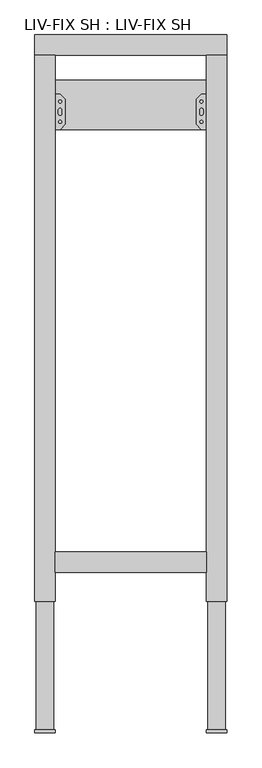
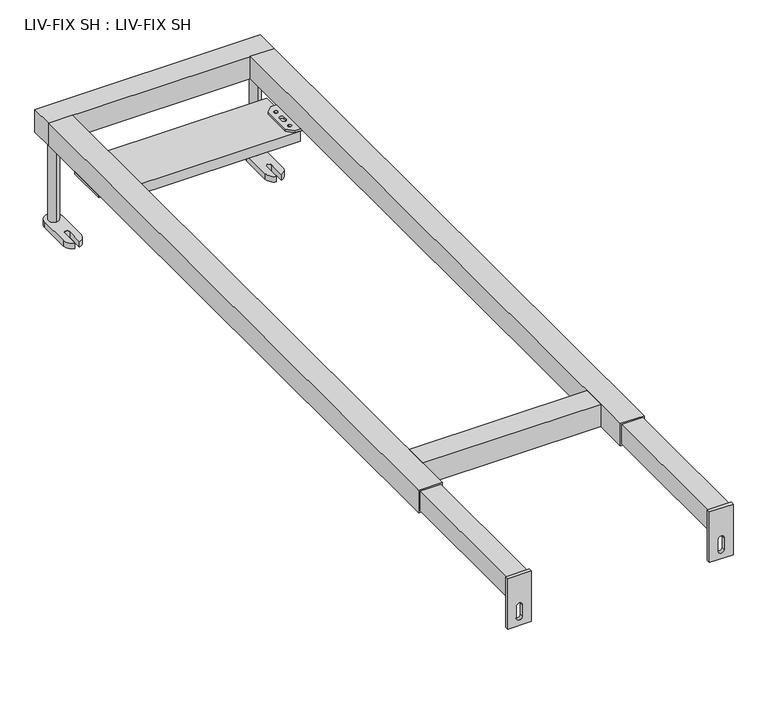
"""IFC4 building model written with IfcOpenShell, lengths in millimetres: flow terminal geometry, LIV-FIX SH : LIV-FIX SH."""

from ifc_helpers import new_model, si_unit, point, frame, frame_2d, origin, origin_with_axes, place, context, project, spatial, polyline, circle_curve, trimmed, segment, composite_curve, outline, extrude, source, transform, mapped, element, save


def liv_fix_sh_liv_fix_sh_ffb86fee(model_context):
    return source(origin(), model_context, "Body", "SweptSolid", [
        extrude(outline(polyline([(149.0, 993.0), (-149.0, 993.0), (-149.0, 1090.0), (149.0, 1090.0), (149.0, 993.0)])), frame((0.0, 0.0, 138.0), z_axis=(0.0, 0.0, 1.0), x_axis=(1.0, 0.0, 0.0)), (0.0, 0.0, 1.0), 18.0),
        extrude(outline(polyline([(140.0, 993.0), (130.0, 1003.0), (130.0, 1053.0), (140.0, 1063.0), (190.0, 1063.0), (190.0, 993.0), (140.0, 993.0)]), holes=[composite_curve([segment(trimmed(circle_curve(frame_2d((175.0, 1028.0)), 4.5), [point((175.0, 1023.5))], [point((175.0, 1032.5))], True, "CARTESIAN"), True, "CONTINUOUS"), segment(trimmed(circle_curve(frame_2d((175.0, 1028.0)), 4.5), [point((175.0, 1032.5))], [point((175.0, 1023.5))], True, "CARTESIAN"), True, "CONTINUOUS")], self_intersect=False), composite_curve([segment(trimmed(circle_curve(frame_2d((175.0, 1048.0)), 4.5), [point((175.0, 1043.5))], [point((175.0, 1052.5))], True, "CARTESIAN"), True, "CONTINUOUS"), segment(trimmed(circle_curve(frame_2d((175.0, 1048.0)), 4.5), [point((175.0, 1052.5))], [point((175.0, 1043.5))], True, "CARTESIAN"), True, "CONTINUOUS")], self_intersect=False), composite_curve([segment(trimmed(circle_curve(frame_2d((175.0, 1008.0)), 4.5), [point((175.0, 1003.5))], [point((175.0, 1012.5))], True, "CARTESIAN"), True, "CONTINUOUS"), segment(trimmed(circle_curve(frame_2d((175.0, 1008.0)), 4.5), [point((175.0, 1012.5))], [point((175.0, 1003.5))], True, "CARTESIAN"), True, "CONTINUOUS")], self_intersect=False), composite_curve([segment(trimmed(circle_curve(frame_2d((140.0, 1048.0)), 2.9795218), [point((140.0, 1045.0204782))], [point((140.0, 1050.9795218))], True, "CARTESIAN"), True, "CONTINUOUS"), segment(trimmed(circle_curve(frame_2d((140.0, 1048.0)), 2.9795218), [point((140.0, 1050.9795218))], [point((140.0, 1045.0204782))], True, "CARTESIAN"), True, "CONTINUOUS")], self_intersect=False), composite_curve([segment(trimmed(circle_curve(frame_2d((140.0, 1008.0)), 2.9795218), [point((140.0, 1005.0204782))], [point((140.0, 1010.9795218))], True, "CARTESIAN"), True, "CONTINUOUS"), segment(trimmed(circle_curve(frame_2d((140.0, 1008.0)), 2.9795218), [point((140.0, 1010.9795218))], [point((140.0, 1005.0204782))], True, "CARTESIAN"), True, "CONTINUOUS")], self_intersect=False), composite_curve([segment(trimmed(circle_curve(frame_2d((140.0, 1031.5)), 3.5), [point((143.5, 1031.5))], [point((136.5, 1031.5))], True, "CARTESIAN"), True, "CONTINUOUS"), segment(polyline([(136.5, 1031.5), (136.5, 1024.5)]), True, "CONTINUOUS"), segment(trimmed(circle_curve(frame_2d((140.0, 1024.5)), 3.5), [point((136.5, 1024.5))], [point((143.5, 1024.5))], True, "CARTESIAN"), True, "CONTINUOUS"), segment(polyline([(143.5, 1024.5), (143.5, 1031.5)]), True, "CONTINUOUS")], self_intersect=False)]), frame((0.0, 0.0, 156.0), z_axis=(0.0, 0.0, 1.0), x_axis=(1.0, 0.0, 0.0)), (0.0, 0.0, 1.0), 4.0),
        extrude(outline(polyline([(-140.0, 993.0), (-190.0, 993.0), (-190.0, 1063.0), (-140.0, 1063.0), (-130.0, 1053.0), (-130.0, 1003.0), (-140.0, 993.0)]), holes=[composite_curve([segment(trimmed(circle_curve(frame_2d((-175.0, 1028.0)), 4.5), [point((-175.0, 1023.5))], [point((-175.0, 1032.5))], True, "CARTESIAN"), True, "CONTINUOUS"), segment(trimmed(circle_curve(frame_2d((-175.0, 1028.0)), 4.5), [point((-175.0, 1032.5))], [point((-175.0, 1023.5))], True, "CARTESIAN"), True, "CONTINUOUS")], self_intersect=False), composite_curve([segment(trimmed(circle_curve(frame_2d((-175.0, 1048.0)), 4.5), [point((-175.0, 1043.5))], [point((-175.0, 1052.5))], True, "CARTESIAN"), True, "CONTINUOUS"), segment(trimmed(circle_curve(frame_2d((-175.0, 1048.0)), 4.5), [point((-175.0, 1052.5))], [point((-175.0, 1043.5))], True, "CARTESIAN"), True, "CONTINUOUS")], self_intersect=False), composite_curve([segment(trimmed(circle_curve(frame_2d((-175.0, 1008.0)), 4.5), [point((-175.0, 1003.5))], [point((-175.0, 1012.5))], True, "CARTESIAN"), True, "CONTINUOUS"), segment(trimmed(circle_curve(frame_2d((-175.0, 1008.0)), 4.5), [point((-175.0, 1012.5))], [point((-175.0, 1003.5))], True, "CARTESIAN"), True, "CONTINUOUS")], self_intersect=False), composite_curve([segment(trimmed(circle_curve(frame_2d((-140.0, 1048.0)), 2.9795218), [point((-140.0, 1045.0204782))], [point((-140.0, 1050.9795218))], True, "CARTESIAN"), True, "CONTINUOUS"), segment(trimmed(circle_curve(frame_2d((-140.0, 1048.0)), 2.9795218), [point((-140.0, 1050.9795218))], [point((-140.0, 1045.0204782))], True, "CARTESIAN"), True, "CONTINUOUS")], self_intersect=False), composite_curve([segment(trimmed(circle_curve(frame_2d((-140.0, 1008.0)), 2.9795218), [point((-140.0, 1005.0204782))], [point((-140.0, 1010.9795218))], True, "CARTESIAN"), True, "CONTINUOUS"), segment(trimmed(circle_curve(frame_2d((-140.0, 1008.0)), 2.9795218), [point((-140.0, 1010.9795218))], [point((-140.0, 1005.0204782))], True, "CARTESIAN"), True, "CONTINUOUS")], self_intersect=False), composite_curve([segment(polyline([(-143.5, 1031.5), (-143.5, 1024.5)]), True, "CONTINUOUS"), segment(trimmed(circle_curve(frame_2d((-140.0, 1024.5)), 3.5), [point((-143.5, 1024.5))], [point((-136.5, 1024.5))], True, "CARTESIAN"), True, "CONTINUOUS"), segment(polyline([(-136.5, 1024.5), (-136.5, 1031.5)]), True, "CONTINUOUS"), segment(trimmed(circle_curve(frame_2d((-140.0, 1031.5)), 3.5), [point((-136.5, 1031.5))], [point((-143.5, 1031.5))], True, "CARTESIAN"), True, "CONTINUOUS")], self_intersect=False)]), frame((0.0, 0.0, 156.0), z_axis=(0.0, 0.0, 1.0), x_axis=(1.0, 0.0, 0.0)), (0.0, 0.0, 1.0), 4.0),
        extrude(outline(composite_curve([segment(trimmed(circle_curve(frame_2d((-170.0, 1160.0)), 8.75), [point((-170.0, 1151.25))], [point((-170.0, 1168.75))], False, "CARTESIAN"), True, "CONTINUOUS"), segment(trimmed(circle_curve(frame_2d((-170.0, 1160.0)), 8.75), [point((-170.0, 1168.75))], [point((-170.0, 1151.25))], False, "CARTESIAN"), True, "CONTINUOUS")], self_intersect=False)), frame((0.0, 0.0, 10.0), z_axis=(0.0, 0.0, 1.0), x_axis=(1.0, 0.0, 0.0)), (0.0, 0.0, 1.0), 150.0),
        extrude(outline(composite_curve([segment(trimmed(circle_curve(frame_2d((170.0, 1160.0)), 8.75), [point((170.0, 1151.25))], [point((170.0, 1168.75))], False, "CARTESIAN"), True, "CONTINUOUS"), segment(trimmed(circle_curve(frame_2d((170.0, 1160.0)), 8.75), [point((170.0, 1168.75))], [point((170.0, 1151.25))], False, "CARTESIAN"), True, "CONTINUOUS")], self_intersect=False)), frame((0.0, 0.0, 10.0), z_axis=(0.0, 0.0, 1.0), x_axis=(1.0, 0.0, 0.0)), (0.0, 0.0, 1.0), 150.0),
        extrude(outline(composite_curve([segment(trimmed(circle_curve(frame_2d((-170.0, 1160.0)), 15.0), [point((-185.0, 1160.0))], [point((-155.0, 1160.0))], False, "CARTESIAN"), True, "CONTINUOUS"), segment(polyline([(-155.0, 1160.0), (-155.0, 1106.0)]), True, "CONTINUOUS"), segment(trimmed(circle_curve(frame_2d((-170.0, 1106.0)), 15.0), [point((-155.0, 1106.0))], [point((-166.0, 1091.5431677))], False, "CARTESIAN"), True, "CONTINUOUS"), segment(polyline([(-166.0, 1091.5431677), (-166.0, 1120.4568323)]), True, "CONTINUOUS"), segment(trimmed(circle_curve(frame_2d((-170.0, 1120.4568323)), 4.0), [point((-166.0, 1120.4568323))], [point((-174.0, 1120.4568323))], True, "CARTESIAN"), True, "CONTINUOUS"), segment(polyline([(-174.0, 1120.4568323), (-174.0, 1091.5431677)]), True, "CONTINUOUS"), segment(trimmed(circle_curve(frame_2d((-170.0, 1106.0)), 15.0), [point((-174.0, 1091.5431677))], [point((-185.0, 1106.0))], False, "CARTESIAN"), True, "CONTINUOUS"), segment(polyline([(-185.0, 1106.0), (-185.0, 1160.0)]), True, "CONTINUOUS")], self_intersect=False)), origin_with_axes(), (0.0, 0.0, 1.0), 10.0),
        extrude(outline(composite_curve([segment(polyline([(185.0, 1160.0), (185.0, 1106.0)]), True, "CONTINUOUS"), segment(trimmed(circle_curve(frame_2d((170.0, 1106.0)), 15.0), [point((185.0, 1106.0))], [point((174.0, 1091.5431677))], False, "CARTESIAN"), True, "CONTINUOUS"), segment(polyline([(174.0, 1091.5431677), (174.0, 1120.4568323)]), True, "CONTINUOUS"), segment(trimmed(circle_curve(frame_2d((170.0, 1120.4568323)), 4.0), [point((174.0, 1120.4568323))], [point((166.0, 1120.4568323))], True, "CARTESIAN"), True, "CONTINUOUS"), segment(polyline([(166.0, 1120.4568323), (166.0, 1091.5431677)]), True, "CONTINUOUS"), segment(trimmed(circle_curve(frame_2d((170.0, 1106.0)), 15.0), [point((166.0, 1091.5431677))], [point((155.0, 1106.0))], False, "CARTESIAN"), True, "CONTINUOUS"), segment(polyline([(155.0, 1106.0), (155.0, 1160.0)]), True, "CONTINUOUS"), segment(trimmed(circle_curve(frame_2d((170.0, 1160.0)), 15.0), [point((155.0, 1160.0))], [point((185.0, 1160.0))], False, "CARTESIAN"), True, "CONTINUOUS")], self_intersect=False)), origin_with_axes(), (0.0, 0.0, 1.0), 10.0),
        extrude(outline(polyline([(-187.5, 349.0), (-152.5, 349.0), (-152.5, -194.0), (-187.5, -194.0), (-187.5, 349.0)])), frame((0.0, 0.0, 162.5), z_axis=(0.0, 0.0, 1.0), x_axis=(1.0, 0.0, 0.0)), (0.0, 0.0, 1.0), 35.0),
        extrude(outline(polyline([(152.4841074, 349.0), (187.4841074, 349.0), (187.4841074, -194.0), (152.4841074, -194.0), (152.4841074, 349.0)])), frame((0.0, 0.0, 162.5), z_axis=(0.0, 0.0, 1.0), x_axis=(1.0, 0.0, 0.0)), (0.0, 0.0, 1.0), 35.0),
        extrude(outline(polyline([(200.0, 190.0), (200.0, 150.0), (110.0, 150.0), (110.0, 190.0), (200.0, 190.0)]), holes=[composite_curve([segment(trimmed(circle_curve(frame_2d((145.0, 170.0)), 5.0), [point((145.0, 165.0))], [point((145.0, 175.0))], True, "CARTESIAN"), True, "CONTINUOUS"), segment(polyline([(145.0, 175.0), (125.0, 175.0)]), True, "CONTINUOUS"), segment(trimmed(circle_curve(frame_2d((125.0, 170.0)), 5.0), [point((125.0, 175.0))], [point((125.0, 165.0))], True, "CARTESIAN"), True, "CONTINUOUS"), segment(polyline([(125.0, 165.0), (145.0, 165.0)]), True, "CONTINUOUS")], self_intersect=False)]), frame((0.0, -200.0, 0.0), z_axis=(0.0, 1.0, 0.0), x_axis=(0.0, 0.0, 1.0)), (0.0, 0.0, 1.0), 6.0),
        extrude(outline(polyline([(200.0, -150.0), (200.0, -190.0), (110.0, -190.0), (110.0, -150.0), (200.0, -150.0)]), holes=[composite_curve([segment(trimmed(circle_curve(frame_2d((145.0, -170.0)), 5.0), [point((145.0, -175.0))], [point((145.0, -165.0))], True, "CARTESIAN"), True, "CONTINUOUS"), segment(polyline([(145.0, -165.0), (125.0, -165.0)]), True, "CONTINUOUS"), segment(trimmed(circle_curve(frame_2d((125.0, -170.0)), 5.0), [point((125.0, -165.0))], [point((125.0, -175.0))], True, "CARTESIAN"), True, "CONTINUOUS"), segment(polyline([(125.0, -175.0), (145.0, -175.0)]), True, "CONTINUOUS")], self_intersect=False)]), frame((0.0, -200.0, 0.0), z_axis=(0.0, 1.0, 0.0), x_axis=(0.0, 0.0, 1.0)), (0.0, 0.0, 1.0), 6.0),
        extrude(outline(polyline([(150.0, 157.0), (150.0, 117.0), (-150.0, 117.0), (-150.0, 157.0), (150.0, 157.0)])), frame((0.0, 0.0, 160.0), z_axis=(0.0, 0.0, 1.0), x_axis=(1.0, 0.0, 0.0)), (0.0, 0.0, 1.0), 40.0),
        extrude(outline(polyline([(-150.0, 60.0), (-190.0, 60.0), (-190.0, 1140.0), (-150.0, 1140.0), (-150.0, 60.0)])), frame((0.0, 0.0, 160.0), z_axis=(0.0, 0.0, 1.0), x_axis=(1.0, 0.0, 0.0)), (0.0, 0.0, 1.0), 40.0),
        extrude(outline(polyline([(190.0, 60.0), (150.0, 60.0), (150.0, 1140.0), (190.0, 1140.0), (190.0, 60.0)])), frame((0.0, 0.0, 160.0), z_axis=(0.0, 0.0, 1.0), x_axis=(1.0, 0.0, 0.0)), (0.0, 0.0, 1.0), 40.0),
        extrude(outline(polyline([(190.0, 1180.0), (190.0, 1140.0), (-190.0, 1140.0), (-190.0, 1180.0), (190.0, 1180.0)])), frame((0.0, 0.0, 160.0), z_axis=(0.0, 0.0, 1.0), x_axis=(1.0, 0.0, 0.0)), (0.0, 0.0, 1.0), 40.0),
    ])


if __name__ == "__main__":
    model = new_model("IFC4")
    model_context = context("Model", 3, world=origin())
    ifc_project = project(units=[si_unit("LENGTHUNIT", "METRE", prefix="MILLI")], contexts=[model_context])
    site = spatial("IfcSite", under=ifc_project)
    building = spatial("IfcBuilding", under=site)
    placement = place(None, origin())
    liv_fix_sh_liv_fix_sh_shape = liv_fix_sh_liv_fix_sh_ffb86fee(model_context)
    element("IfcFlowTerminal", 1, ObjectType="LIV-FIX SH : LIV-FIX SH", at=placement, inside=building, context=model_context, shape_type="MappedRepresentation", body=[
        mapped(liv_fix_sh_liv_fix_sh_shape, transform((0.0, 0.0, 0.0), x_axis=(1.0, 0.0, 0.0), y_axis=(0.0, 1.0, 0.0), z_axis=(0.0, 0.0, 1.0))),
    ])
    save(model, "model.ifc")
